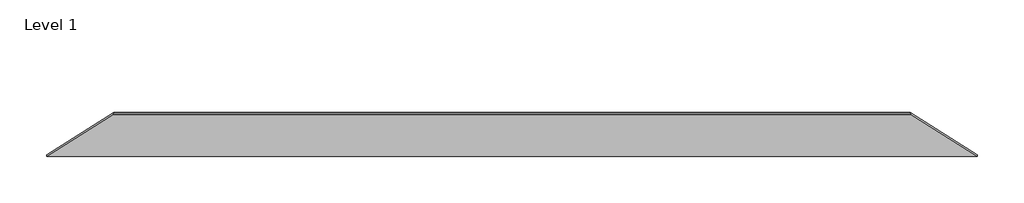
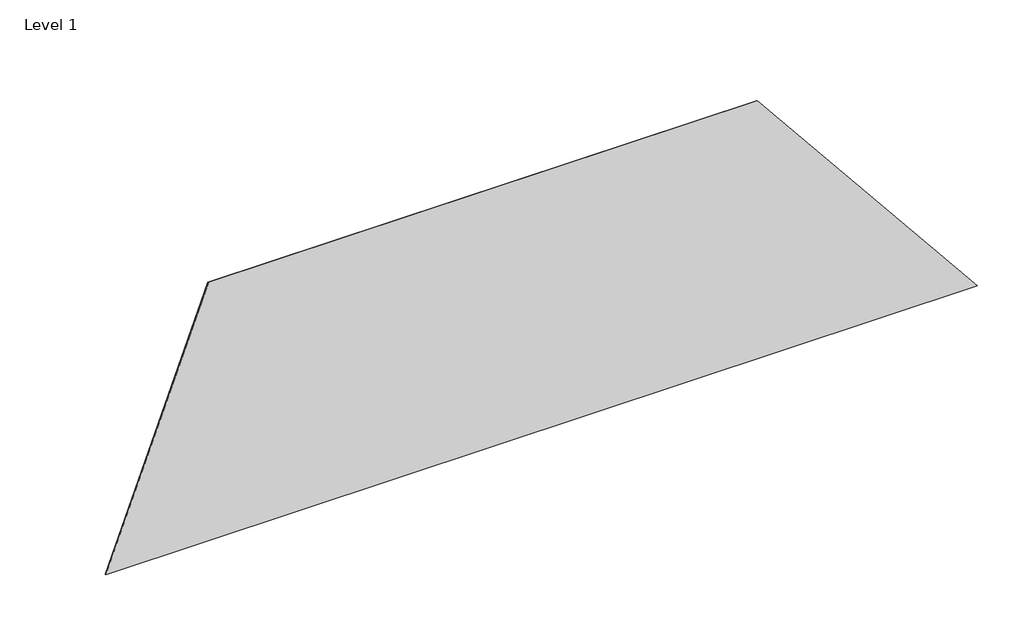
# One storey: 1 plate.
"""IFC4 building model written with IfcOpenShell, lengths in millimetres."""

from ifc_helpers import new_model, si_unit, origin, place, context, project, spatial, transform, mapped, element, save
from components import system_panel_glazed_aef5ca31

model = new_model("IFC4")

# Units and contexts
model_context = context("Model", 3, world=origin())
ifc_project = project(units=[si_unit("LENGTHUNIT", "METRE", prefix="MILLI")], contexts=[model_context])

# Site, building, storey
site = spatial("IfcSite", under=ifc_project)
building = spatial("IfcBuilding", under=site)
storey = spatial("IfcBuildingStorey", under=building, Name="Level 1", Elevation=0.0)

# Plate
placement = place(None, origin())
system_panel_glazed_shape = system_panel_glazed_aef5ca31(model_context)
element("IfcPlate", 1, ObjectType="System Panel : Glazed", at=placement, inside=storey, context=model_context, shape_type="MappedRepresentation", body=[
    mapped(system_panel_glazed_shape, transform((-706.8082055, 930.8166745, 3048.0), x_axis=(1.0, 0.0, 0.0), y_axis=(0.0, -0.8826281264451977, 0.4700718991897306), z_axis=(0.0, -0.4700718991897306, -0.8826281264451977))),
])

save(model, "model.ifc")
